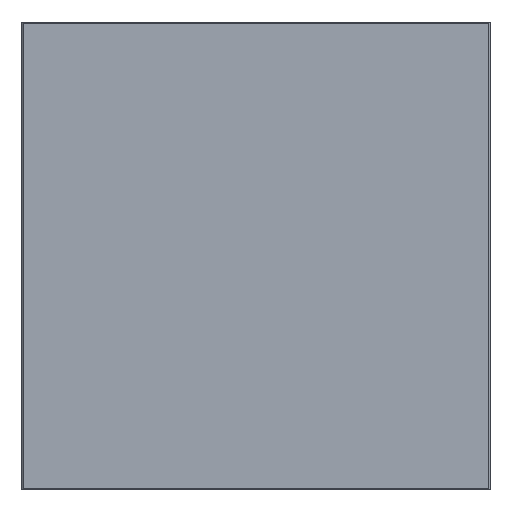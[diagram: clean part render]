
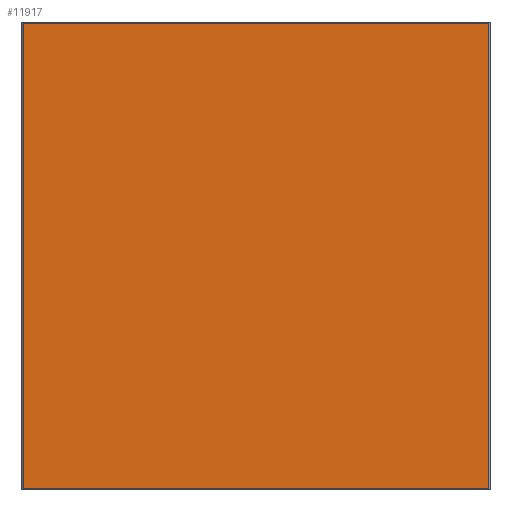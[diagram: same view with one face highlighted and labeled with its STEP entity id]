
A CAD part, top view. The second image highlights one B-rep face of the part: STEP entity #11917.
In plain terms, the highlighted planar face has unit normal (0, 0, 1).
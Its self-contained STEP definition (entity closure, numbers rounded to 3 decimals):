
#11878=CARTESIAN_POINT('',(0.,0.,20.));
#11879=DIRECTION('',(1.,0.,0.));
#11880=DIRECTION('',(0.,0.,1.));
#11881=AXIS2_PLACEMENT_3D('',#11878,#11880,#11879);
#11882=PLANE('',#11881);
#11883=CARTESIAN_POINT('',(298.5,-298.5,20.));
#11884=VERTEX_POINT('',#11883);
#11885=CARTESIAN_POINT('',(298.5,298.5,20.));
#11886=VERTEX_POINT('',#11885);
#11887=CARTESIAN_POINT('',(298.5,-298.5,20.));
#11888=DIRECTION('',(0.,1.,0.));
#11889=VECTOR('',#11888,597.);
#11890=LINE('',#11887,#11889);
#11891=EDGE_CURVE('',#11884,#11886,#11890,.T.);
#11892=ORIENTED_EDGE('E118',*,*,#11891,.T.);
#11893=CARTESIAN_POINT('',(-298.5,298.5,20.));
#11894=VERTEX_POINT('',#11893);
#11895=CARTESIAN_POINT('',(298.5,298.5,20.));
#11896=DIRECTION('',(-1.,0.,0.));
#11897=VECTOR('',#11896,597.);
#11898=LINE('',#11895,#11897);
#11899=EDGE_CURVE('',#11886,#11894,#11898,.T.);
#11900=ORIENTED_EDGE('E119',*,*,#11899,.T.);
#11901=CARTESIAN_POINT('',(-298.5,-298.5,20.));
#11902=VERTEX_POINT('',#11901);
#11903=CARTESIAN_POINT('',(-298.5,298.5,20.));
#11904=DIRECTION('',(0.,-1.,0.));
#11905=VECTOR('',#11904,597.);
#11906=LINE('',#11903,#11905);
#11907=EDGE_CURVE('',#11894,#11902,#11906,.T.);
#11908=ORIENTED_EDGE('E120',*,*,#11907,.T.);
#11909=CARTESIAN_POINT('',(-298.5,-298.5,20.));
#11910=DIRECTION('',(1.,0.,0.));
#11911=VECTOR('',#11910,597.);
#11912=LINE('',#11909,#11911);
#11913=EDGE_CURVE('',#11902,#11884,#11912,.T.);
#11914=ORIENTED_EDGE('E117',*,*,#11913,.T.);
#11915=EDGE_LOOP('',(#11892,#11900,#11908,#11914));
#11916=FACE_OUTER_BOUND('',#11915,.T.);
#11917=ADVANCED_FACE('F2',(#11916),#11882,.T.);
